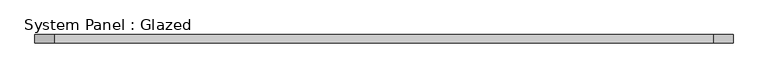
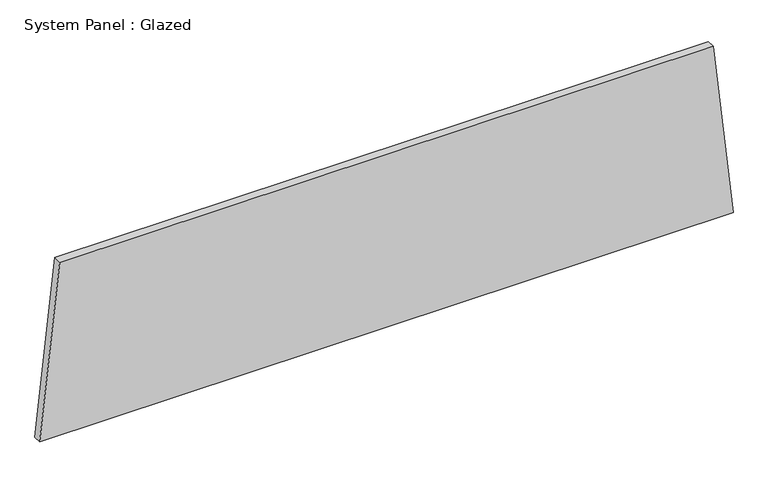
"""IFC4 building model written with IfcOpenShell, lengths in millimetres: plate geometry, System Panel : Glazed."""

from ifc_helpers import new_model, si_unit, frame, origin, place, context, project, spatial, polyline, outline, extrude, source, transform, mapped, element, save


def system_panel_glazed_d6782710(model_context):
    return source(origin(), model_context, "Body", "SweptSolid", [
        extrude(outline(polyline([(0.0, -1075.5484911), (0.0, 1075.5484911), (567.915181, 1013.6853958), (567.915181, -1013.6853958), (0.0, -1075.5484911)])), frame((0.0, -44.45, 0.0), z_axis=(0.0, 1.0, 0.0), x_axis=(0.0, 0.0, 1.0)), (0.0, 0.0, 1.0), 25.4),
    ])


if __name__ == "__main__":
    model = new_model("IFC4")
    model_context = context("Model", 3, world=origin())
    ifc_project = project(units=[si_unit("LENGTHUNIT", "METRE", prefix="MILLI")], contexts=[model_context])
    site = spatial("IfcSite", under=ifc_project)
    building = spatial("IfcBuilding", under=site)
    placement = place(None, origin())
    system_panel_glazed_shape = system_panel_glazed_d6782710(model_context)
    element("IfcPlate", 1, ObjectType="System Panel : Glazed", at=placement, inside=building, context=model_context, shape_type="MappedRepresentation", body=[
        mapped(system_panel_glazed_shape, transform((0.0, 0.0, 0.0), x_axis=(1.0, 0.0, 0.0), y_axis=(0.0, 1.0, 0.0), z_axis=(0.0, 0.0, 1.0))),
    ])
    save(model, "model.ifc")
